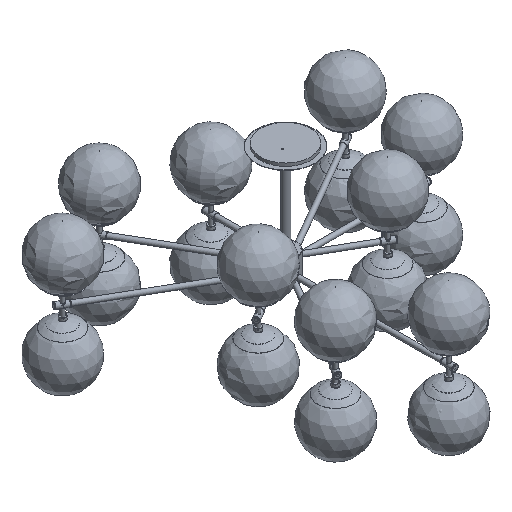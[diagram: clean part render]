
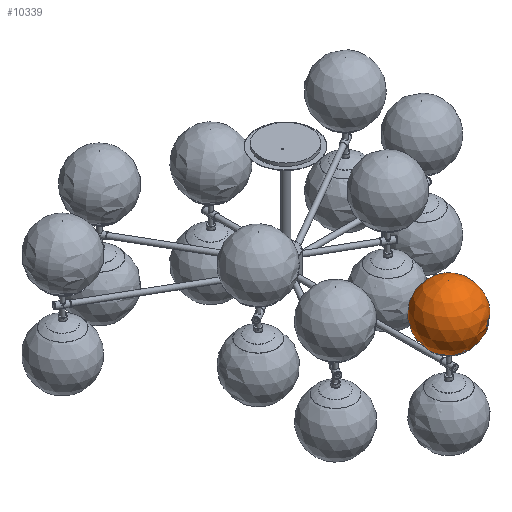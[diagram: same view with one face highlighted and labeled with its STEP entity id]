
A CAD part, isometric view. The second image highlights one B-rep face of the part: STEP entity #10339.
In plain terms, the highlighted free-form (B-spline) face has degree [2, 2] with [5, 9] control points.
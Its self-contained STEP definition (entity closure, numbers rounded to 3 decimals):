
#265=(
BOUNDED_SURFACE()
B_SPLINE_SURFACE(2,2,((#19211,#19212,#19213,#19214,#19215,#19216,#19217,
#19218,#19219),(#19220,#19221,#19222,#19223,#19224,#19225,#19226,#19227,
#19228),(#19229,#19230,#19231,#19232,#19233,#19234,#19235,#19236,#19237),
(#19238,#19239,#19240,#19241,#19242,#19243,#19244,#19245,#19246),(#19247,
#19248,#19249,#19250,#19251,#19252,#19253,#19254,#19255)),.UNSPECIFIED.,
 .F.,.T.,.F.)
B_SPLINE_SURFACE_WITH_KNOTS((3,2,3),(3,2,2,2,3),(-1.156,0.208,
1.572),(-3.142,-1.571,0.,1.571,
3.142),.UNSPECIFIED.)
GEOMETRIC_REPRESENTATION_ITEM()
RATIONAL_B_SPLINE_SURFACE(((1.,0.707,1.,0.707,1.,
0.707,1.,0.707,1.),(0.776,0.549,
0.776,0.549,0.776,0.549,0.776,
0.549,0.776),(1.,0.707,1.,0.707,
1.,0.707,1.,0.707,1.),(0.776,0.549,
0.776,0.549,0.776,0.549,
0.776,0.549,0.776),(1.,0.707,
1.,0.707,1.,0.707,1.,0.707,1.)))
REPRESENTATION_ITEM('')
SURFACE()
);
#1516=FACE_OUTER_BOUND('',#2452,.T.);
#2452=EDGE_LOOP('',(#8543,#8544,#8545));
#4307=CIRCLE('',#11839,40.391);
#4309=CIRCLE('',#11841,100.);
#5170=VERTEX_POINT('',#19208);
#5171=VERTEX_POINT('',#19256);
#6342=EDGE_CURVE('',#5170,#5170,#4307,.T.);
#6344=EDGE_CURVE('',#5171,#5170,#4309,.T.);
#8543=ORIENTED_EDGE('',*,*,#6344,.T.);
#8544=ORIENTED_EDGE('',*,*,#6342,.T.);
#8545=ORIENTED_EDGE('',*,*,#6344,.F.);
#10339=ADVANCED_FACE('',(#1516),#265,.F.);
#11839=AXIS2_PLACEMENT_3D('',#19209,#14845,#14846);
#11841=AXIS2_PLACEMENT_3D('',#19257,#14849,#14850);
#14845=DIRECTION('center_axis',(0.,0.,
1.));
#14846=DIRECTION('ref_axis',(-0.594,-0.804,0.));
#14849=DIRECTION('center_axis',(0.594,0.804,0.));
#14850=DIRECTION('ref_axis',(0.804,-0.594,0.));
#19208=CARTESIAN_POINT('',(32.49,-580.898,304.671));
#19209=CARTESIAN_POINT('Origin',(0.,-556.9,
304.671));
#19211=CARTESIAN_POINT('Ctrl Pts',(32.49,-580.898,304.671));
#19212=CARTESIAN_POINT('Ctrl Pts',(56.487,-548.408,304.671));
#19213=CARTESIAN_POINT('Ctrl Pts',(23.998,-524.41,304.671));
#19214=CARTESIAN_POINT('Ctrl Pts',(-8.492,-500.413,
304.671));
#19215=CARTESIAN_POINT('Ctrl Pts',(-32.49,-532.902,304.671));
#19216=CARTESIAN_POINT('Ctrl Pts',(-56.487,-565.392,
304.671));
#19217=CARTESIAN_POINT('Ctrl Pts',(-23.998,-589.39,
304.671));
#19218=CARTESIAN_POINT('Ctrl Pts',(8.492,-613.387,304.671));
#19219=CARTESIAN_POINT('Ctrl Pts',(32.49,-580.898,304.671));
#19220=CARTESIAN_POINT('Ctrl Pts',(92.273,-625.055,337.38));
#19221=CARTESIAN_POINT('Ctrl Pts',(160.428,-532.782,337.38));
#19222=CARTESIAN_POINT('Ctrl Pts',(68.155,-464.627,337.38));
#19223=CARTESIAN_POINT('Ctrl Pts',(-24.118,-396.472,
337.38));
#19224=CARTESIAN_POINT('Ctrl Pts',(-92.273,-488.745,
337.38));
#19225=CARTESIAN_POINT('Ctrl Pts',(-160.428,-581.018,
337.38));
#19226=CARTESIAN_POINT('Ctrl Pts',(-68.155,-649.173,
337.38));
#19227=CARTESIAN_POINT('Ctrl Pts',(24.118,-717.328,337.38));
#19228=CARTESIAN_POINT('Ctrl Pts',(92.273,-625.055,337.38));
#19229=CARTESIAN_POINT('Ctrl Pts',(78.795,-615.1,416.835));
#19230=CARTESIAN_POINT('Ctrl Pts',(136.995,-536.305,416.835));
#19231=CARTESIAN_POINT('Ctrl Pts',(58.2,-478.105,416.835));
#19232=CARTESIAN_POINT('Ctrl Pts',(-20.595,-419.905,416.835));
#19233=CARTESIAN_POINT('Ctrl Pts',(-78.795,-498.7,
416.835));
#19234=CARTESIAN_POINT('Ctrl Pts',(-136.995,-577.495,
416.835));
#19235=CARTESIAN_POINT('Ctrl Pts',(-58.2,-635.695,
416.835));
#19236=CARTESIAN_POINT('Ctrl Pts',(20.595,-693.895,416.835));
#19237=CARTESIAN_POINT('Ctrl Pts',(78.795,-615.1,416.835));
#19238=CARTESIAN_POINT('Ctrl Pts',(65.317,-605.144,496.29));
#19239=CARTESIAN_POINT('Ctrl Pts',(113.561,-539.828,496.29));
#19240=CARTESIAN_POINT('Ctrl Pts',(48.244,-491.583,496.29));
#19241=CARTESIAN_POINT('Ctrl Pts',(-17.072,-443.339,
496.29));
#19242=CARTESIAN_POINT('Ctrl Pts',(-65.317,-508.656,
496.29));
#19243=CARTESIAN_POINT('Ctrl Pts',(-113.561,-573.972,
496.29));
#19244=CARTESIAN_POINT('Ctrl Pts',(-48.244,-622.217,
496.29));
#19245=CARTESIAN_POINT('Ctrl Pts',(17.072,-670.461,496.29));
#19246=CARTESIAN_POINT('Ctrl Pts',(65.317,-605.144,496.29));
#19247=CARTESIAN_POINT('Ctrl Pts',(0.,-556.9,
496.2));
#19248=CARTESIAN_POINT('Ctrl Pts',(0.,-556.9,
496.2));
#19249=CARTESIAN_POINT('Ctrl Pts',(0.,-556.9,
496.2));
#19250=CARTESIAN_POINT('Ctrl Pts',(0.,-556.9,
496.2));
#19251=CARTESIAN_POINT('Ctrl Pts',(0.,-556.9,
496.2));
#19252=CARTESIAN_POINT('Ctrl Pts',(0.,-556.9,
496.2));
#19253=CARTESIAN_POINT('Ctrl Pts',(0.,-556.9,
496.2));
#19254=CARTESIAN_POINT('Ctrl Pts',(0.,-556.9,
496.2));
#19255=CARTESIAN_POINT('Ctrl Pts',(0.,-556.9,
496.2));
#19256=CARTESIAN_POINT('',(0.,-556.9,496.2));
#19257=CARTESIAN_POINT('Origin',(0.089,-556.966,396.2));
